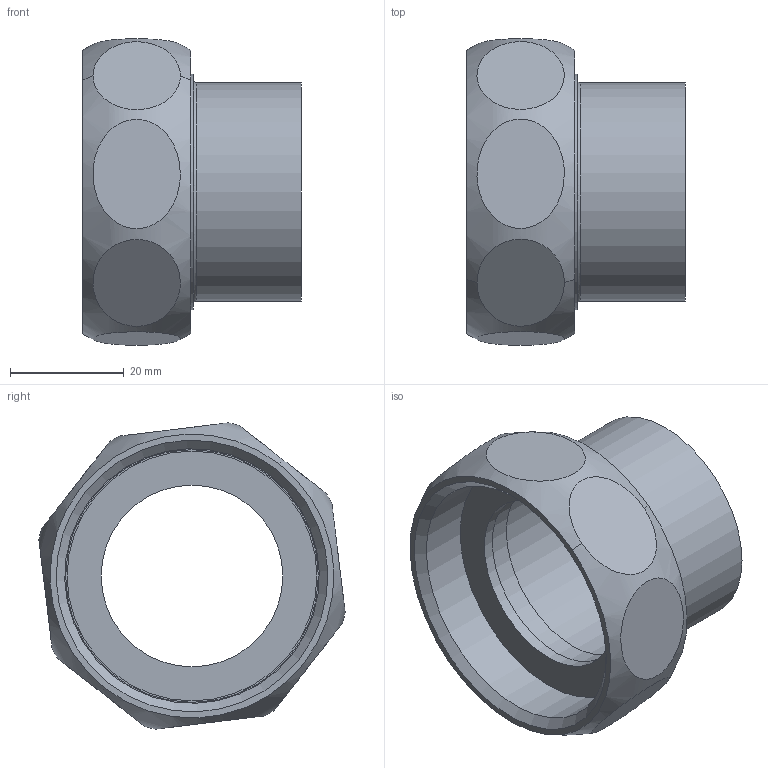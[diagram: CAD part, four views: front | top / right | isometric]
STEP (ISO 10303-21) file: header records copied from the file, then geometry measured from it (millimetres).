
FILE_DESCRIPTION((''),'2;1');
FILE_NAME('C:\Documents and Settings\pajchrowski\Desktop\14359_35-112.stp','2010-04-21T12:02:01',('pajchrowski'),(''),'Autodesk Inventor 2009','Autodesk Inventor 2009','');
FILE_SCHEMA(('AUTOMOTIVE_DESIGN { 1 0 10303 214 1 1 1 1 }'));
Length unit declared in the file: millimetre
Products named in the file (5): 14359_35-112; 14372_35-112(1); CZʌ2; 14374_112; 1DCU112
Assembly tree (4 placements, depth 3):
  14359_35-112
    14372_35-112(1)
      CZʌ2
    14374_112
    1DCU112
Bounding box: 38.5 x 53.97 x 53.97 mm (x, y, z)
Volume: 21372.2 mm3; surface area: 16492.8 mm2
Topology: 3 solids, 3 shells, 32 faces, 57 edges, 41 vertices
Faces by surface type: plane 18, cylinder 9, bspline 4, cone 1
Full cylindrical faces by diameter (mm): 32 x1, 33 x1, 35 x1, 38.4 x1, 41.5 x1, 42.5 x1, 44 x1, 44.5 x1, 44.845 x1
Entity records: 1374 total; most frequent: CARTESIAN_POINT 671, DIRECTION 136, ORIENTED_EDGE 82, AXIS2_PLACEMENT_3D 68, EDGE_LOOP 60, EDGE_CURVE 41, VERTEX_POINT 37, FACE_OUTER_BOUND 32
